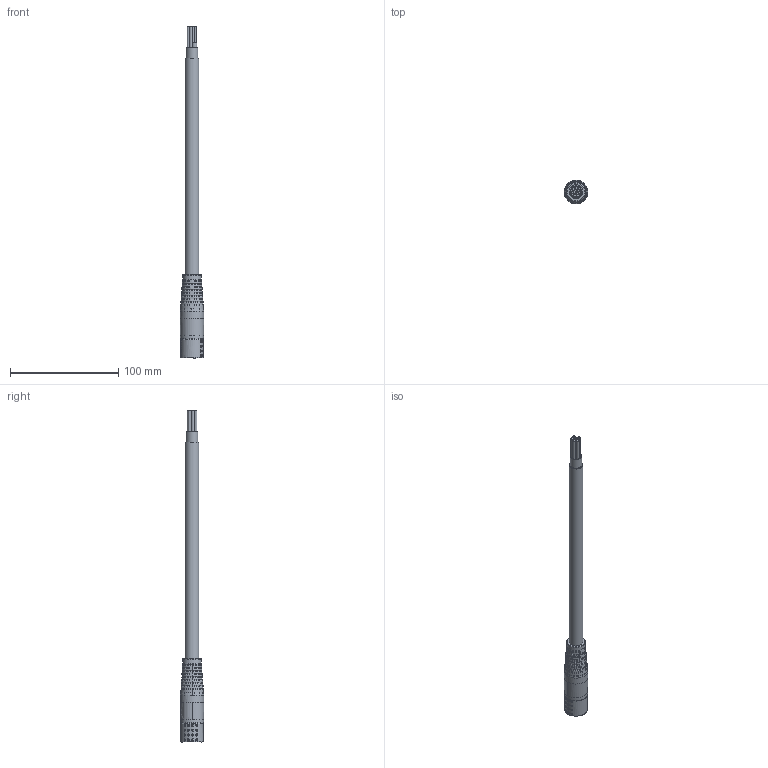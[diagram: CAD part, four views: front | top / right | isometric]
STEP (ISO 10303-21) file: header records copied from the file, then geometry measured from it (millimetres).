
FILE_DESCRIPTION (( 'STEP AP203' ), '1' );
FILE_NAME ('1135028_W-TEC_15M_GLATT_BU_STEP.STEP', '2023-09-06T13:20:17', ( '' ), ( '' ), 'SwSTEP 2.0', 'SolidWorks 2021', '' );
FILE_SCHEMA (( 'CONFIG_CONTROL_DESIGN' ));
Length unit declared in the file: millimetre
Products named in the file (1): 1135028_W-TEC_15M_GLATT_BU_STEP
Bounding box: 21.78 x 21.84 x 307.02 mm (x, y, z)
Surface area: 19260.3 mm2 (no closed solid volume)
Topology: 0 solids, 24 shells, 474 faces, 1880 edges, 1338 vertices
Faces by surface type: bspline 261, plane 96, cylinder 85, cone 30, torus 2
Full cylindrical faces by diameter (mm): 1.7 x2, 2.5 x3, 3.3 x6, 4.2 x3, 4.452 x1, 4.7 x1, 9.7 x1, 10.7 x1, 12.8 x1, 16.8 x1, 17.384 x1, 18.4 x1, 21.24 x1, 21.72 x1
Entity records: 37366 total; most frequent: CARTESIAN_POINT 25309, ORIENTED_EDGE 2727, EDGE_CURVE 1808, DIRECTION 1602, VERTEX_POINT 1330, B_SPLINE_CURVE_WITH_KNOTS 870, AXIS2_PLACEMENT_3D 601, EDGE_LOOP 567
